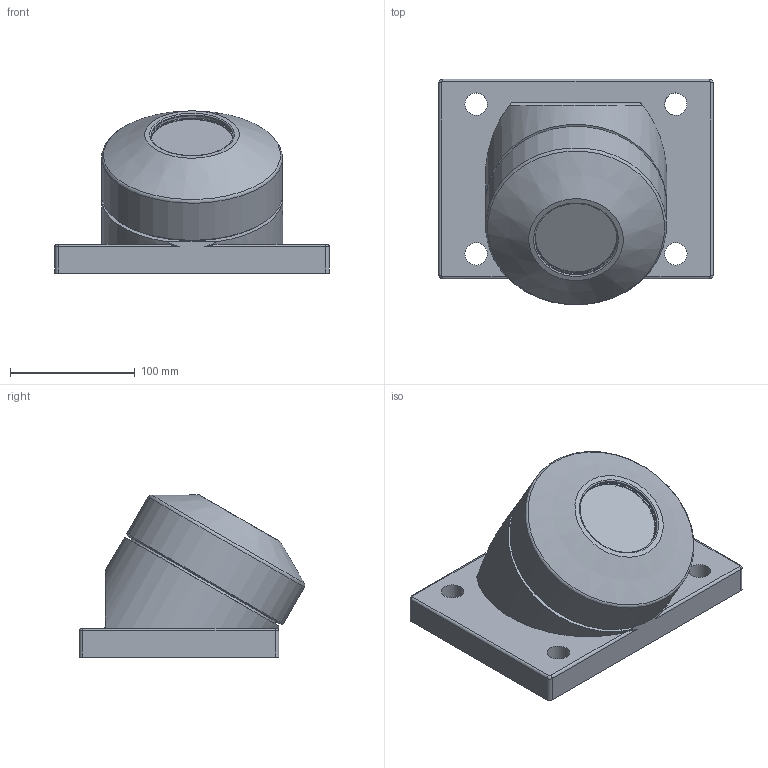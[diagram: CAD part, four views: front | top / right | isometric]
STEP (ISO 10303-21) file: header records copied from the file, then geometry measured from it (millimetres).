
FILE_DESCRIPTION(/* description */ (''),/* implementation_level */ '2;1');
FILE_NAME(/* name */ 'Z:\34-Tei\01-web 3Dデータ\SW車輪\SW-130-I.stp',/* time_stamp */ '2015-03-17T16:44:06+09:00',/* author */ ('yamaki'),/* organization */ (''),/* preprocessor_version */ 'ST-DEVELOPER v15.6',/* originating_system */ 'Autodesk Inventor 2015',/* authorisation */ '');
FILE_SCHEMA (('AUTOMOTIVE_DESIGN { 1 0 10303 214 3 1 1 }'));
Length unit declared in the file: centimetre
Products named in the file (1): SW-130-I
Bounding box: 220 x 180.87 x 129.94 mm (x, y, z)
Volume: 1893950.5 mm3; surface area: 207217.8 mm2
Topology: 1 solids, 3 shells, 104 faces, 208 edges, 132 vertices
Faces by surface type: cylinder 42, plane 35, cone 15, torus 8, bspline 4
Full cylindrical faces by diameter (mm): 4 x1, 8 x1, 18 x4, 25 x2, 29 x2, 30 x2, 36 x1, 37 x1, 55 x1, 56 x1, 58 x2, 60 x1, 62 x1, 62.1 x1, 63 x1, 65.2 x1, 66 x2, 68 x1, 70 x1, 105.1 x1, 118 x1, 119 x1, 145 x1
Entity records: 2636 total; most frequent: CARTESIAN_POINT 523, DIRECTION 445, ORIENTED_EDGE 284, AXIS2_PLACEMENT_3D 210, EDGE_LOOP 192, EDGE_CURVE 142, VERTEX_POINT 120, STYLED_ITEM 105
